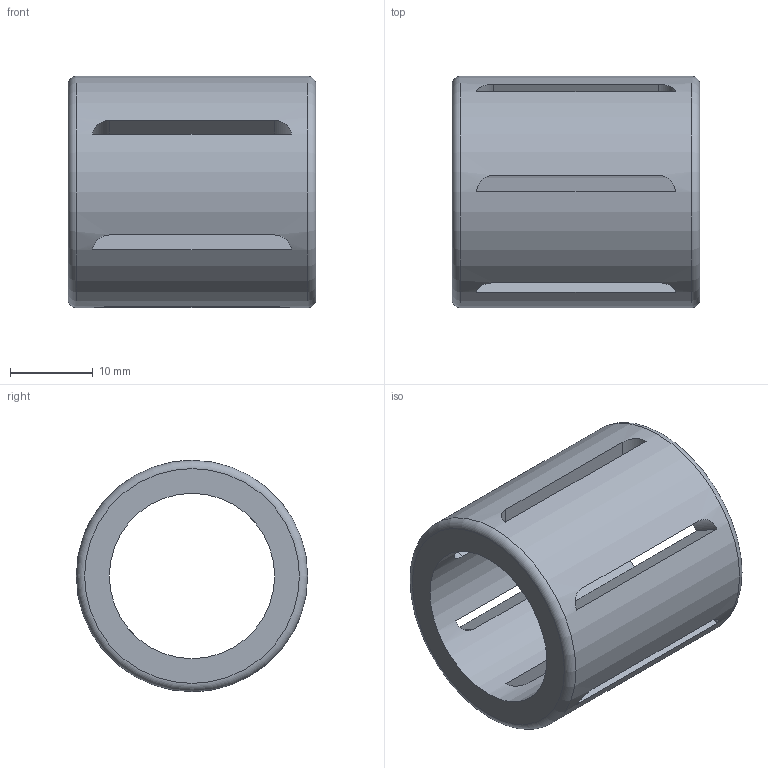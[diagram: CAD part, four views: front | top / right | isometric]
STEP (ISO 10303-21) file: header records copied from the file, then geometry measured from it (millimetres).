
FILE_DESCRIPTION(/* description */ ('Unknown'),/* implementation_level */ '2;1');
FILE_NAME(/* name */ 'KH2030',/* time_stamp */ '2025-02-04T09:50:41+08:00',/* author */ ('Unknown'),/* organization */ ('Unknown'),/* preprocessor_version */ 'ST-DEVELOPER v18.102',/* originating_system */ 'Solid Edge',/* authorisation */ 'Unknown');
FILE_SCHEMA (('AUTOMOTIVE_DESIGN {1 0 10303 214 3 1 1}'));
Length unit declared in the file: millimetre
Products named in the file (1): KH2030
Bounding box: 30 x 28 x 28 mm (x, y, z)
Volume: 7894.7 mm3; surface area: 5707.5 mm2
Topology: 1 solids, 1 shells, 30 faces, 84 edges, 54 vertices
Faces by surface type: cylinder 14, plane 14, torus 2
Full cylindrical faces by diameter (mm): 20 x1, 28 x1
Entity records: 1022 total; most frequent: CARTESIAN_POINT 259, ORIENTED_EDGE 156, DIRECTION 122, EDGE_CURVE 78, VERTEX_POINT 54, LINE 48, VECTOR 48, EDGE_LOOP 48
